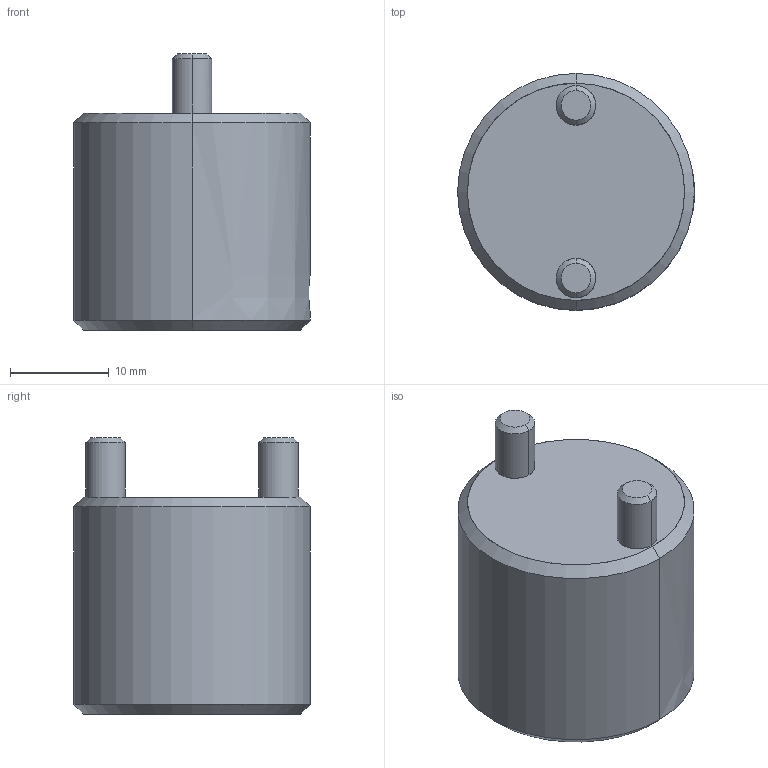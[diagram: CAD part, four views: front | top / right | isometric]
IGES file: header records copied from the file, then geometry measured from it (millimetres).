
Start section: START RECORD GO HERE.
Global section: file name: CS1812.igs; native system: DASSAULT SYSTEMES CATIA V5 R20 - www.3ds.com; preprocessor: CATIA Version 5 Release 20 ; author: r.borello; organization: CFTORINO; date: 20190624.105207; units: millimetre
Bounding box: 24 x 24 x 28 mm (x, y, z)
Surface area: 3346.7 mm2 (no closed solid volume)
Topology: 0 solids, 0 shells, 23 faces, 94 edges, 94 vertices
Faces by surface type: revolution 18, plane 5
